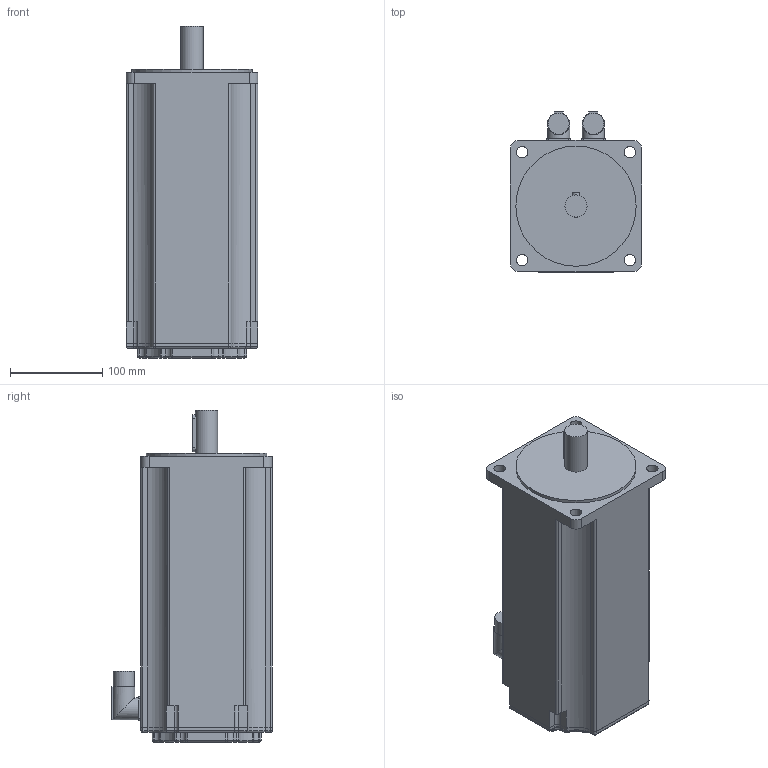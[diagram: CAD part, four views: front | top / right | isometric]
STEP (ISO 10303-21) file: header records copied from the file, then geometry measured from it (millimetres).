
FILE_DESCRIPTION(/* description */ (''),/* implementation_level */ '2;1');
FILE_NAME(/* name */ '\\Lafnas01\disegni\Archivi Lafert\3D\CAD 3D\MODELLI\Assiemi clienti\Serad\Modelli 3D Serad\B71Q\Encoder\Enc Without Brake\B7126Qxx6ARx2033.ipt.stp',/* time_stamp */ '2015-09-07T10:52:31+02:00',/* author */ ('Pastrello Ylenia'),/* organization */ (''),/* preprocessor_version */ 'ST-DEVELOPER v15.6',/* originating_system */ 'Autodesk Inventor 2015',/* authorisation */ '');
FILE_SCHEMA (('AUTOMOTIVE_DESIGN { 1 0 10303 214 3 1 1 }'));
Length unit declared in the file: millimetre
Products named in the file (1): B7126Qxx6ARx2033
Bounding box: 142 x 173.5 x 359 mm (x, y, z)
Volume: 5437503.3 mm3; surface area: 213670.7 mm2
Topology: 1 solids, 1 shells, 251 faces, 624 edges, 386 vertices
Faces by surface type: cylinder 118, plane 93, torus 20, sphere 20
Full cylindrical faces by diameter (mm): 12.5 x4, 22.7 x2, 24 x3, 130 x1
Entity records: 7508 total; most frequent: CARTESIAN_POINT 1382, DIRECTION 1362, ORIENTED_EDGE 1220, EDGE_CURVE 610, AXIS2_PLACEMENT_3D 510, VERTEX_POINT 382, LINE 342, VECTOR 342
